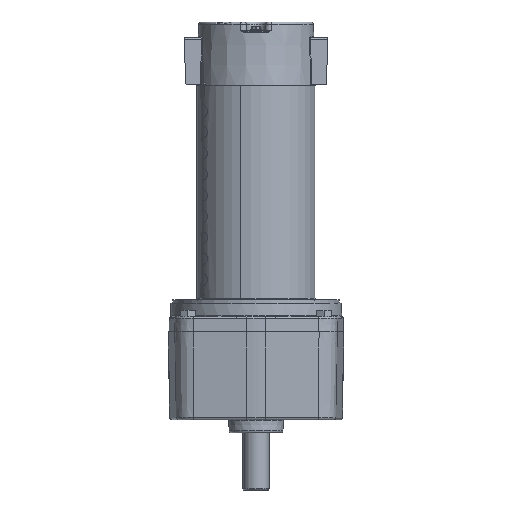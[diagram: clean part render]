
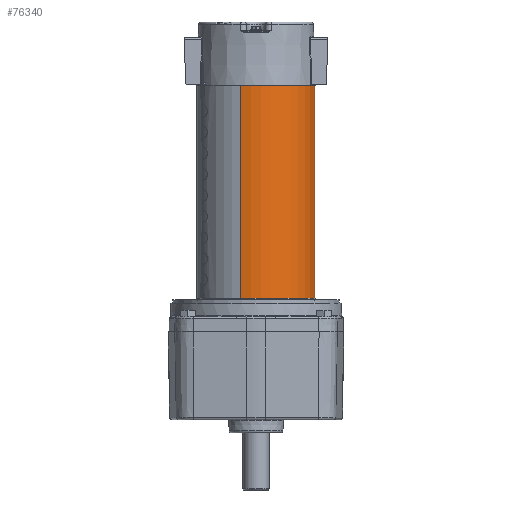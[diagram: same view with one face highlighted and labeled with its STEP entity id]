
A CAD part, front view. The second image highlights one B-rep face of the part: STEP entity #76340.
In plain terms, the highlighted cylindrical face has radius 43.04 mm (diameter 86.081 mm), a partial arc.
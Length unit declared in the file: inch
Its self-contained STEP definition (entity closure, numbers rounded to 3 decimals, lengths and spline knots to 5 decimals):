
#1850 = DIRECTION ( 'NONE',  ( -0.259, -0.966, 0. ) ) ;
#3809 = CARTESIAN_POINT ( 'NONE',  ( -0.43857, -1.63676, -0.02 ) ) ;
#4384 = CARTESIAN_POINT ( 'NONE',  ( 0., 0., -6.082 ) ) ;
#4710 = DIRECTION ( 'NONE',  ( 0., 0., 1. ) ) ;
#7617 = CIRCLE ( 'NONE', #51582, 1.6945 ) ;
#8335 = VERTEX_POINT ( 'NONE', #37825 ) ;
#10234 = VECTOR ( 'NONE', #4710, 39.37008 ) ;
#10994 = DIRECTION ( 'NONE',  ( 0.259, 0.966, 0. ) ) ;
#12242 = FACE_OUTER_BOUND ( 'NONE', #74994, .T. ) ;
#13514 = AXIS2_PLACEMENT_3D ( 'NONE', #30221, #61853, #36224 ) ;
#21809 = ORIENTED_EDGE ( 'NONE', *, *, #42996, .T. ) ;
#22555 = VERTEX_POINT ( 'NONE', #48488 ) ;
#27672 = LINE ( 'NONE', #57041, #10234 ) ;
#29856 = CIRCLE ( 'NONE', #31722, 1.6945 ) ;
#30221 = CARTESIAN_POINT ( 'NONE',  ( 0., 0., -6.102 ) ) ;
#31722 = AXIS2_PLACEMENT_3D ( 'NONE', #4384, #50214, #10994 ) ;
#35041 = DIRECTION ( 'NONE',  ( 0., 0., 1. ) ) ;
#36224 = DIRECTION ( 'NONE',  ( -0.259, -0.966, 0. ) ) ;
#37825 = CARTESIAN_POINT ( 'NONE',  ( 0.43857, 1.63676, -0.02 ) ) ;
#41122 = DIRECTION ( 'NONE',  ( 0., 0., -1. ) ) ;
#41568 = ORIENTED_EDGE ( 'NONE', *, *, #75590, .F. ) ;
#42996 = EDGE_CURVE ( 'NONE', #22555, #8335, #48946, .T. ) ;
#48488 = CARTESIAN_POINT ( 'NONE',  ( 0.43857, 1.63676, -6.082 ) ) ;
#48946 = LINE ( 'NONE', #80582, #81494 ) ;
#50214 = DIRECTION ( 'NONE',  ( 0., 0., 1. ) ) ;
#51582 = AXIS2_PLACEMENT_3D ( 'NONE', #80079, #41122, #1850 ) ;
#56704 = ORIENTED_EDGE ( 'NONE', *, *, #68605, .T. ) ;
#57041 = CARTESIAN_POINT ( 'NONE',  ( -0.43857, -1.63676, -6.102 ) ) ;
#57203 = ORIENTED_EDGE ( 'NONE', *, *, #80728, .T. ) ;
#58371 = VERTEX_POINT ( 'NONE', #3809 ) ;
#61853 = DIRECTION ( 'NONE',  ( 0., 0., 1. ) ) ;
#67517 = CARTESIAN_POINT ( 'NONE',  ( -0.43857, -1.63676, -6.082 ) ) ;
#68605 = EDGE_CURVE ( 'NONE', #83976, #22555, #29856, .T. ) ;
#74994 = EDGE_LOOP ( 'NONE', ( #56704, #21809, #57203, #41568 ) ) ;
#75590 = EDGE_CURVE ( 'NONE', #83976, #58371, #27672, .T. ) ;
#76340 = ADVANCED_FACE ( 'NONE', ( #12242 ), #79587, .T. ) ;
#79587 = CYLINDRICAL_SURFACE ( 'NONE', #13514, 1.6945 ) ;
#80079 = CARTESIAN_POINT ( 'NONE',  ( 0., 0., -0.02 ) ) ;
#80582 = CARTESIAN_POINT ( 'NONE',  ( 0.43857, 1.63676, -6.102 ) ) ;
#80728 = EDGE_CURVE ( 'NONE', #8335, #58371, #7617, .T. ) ;
#81494 = VECTOR ( 'NONE', #35041, 39.37008 ) ;
#83976 = VERTEX_POINT ( 'NONE', #67517 ) ;
